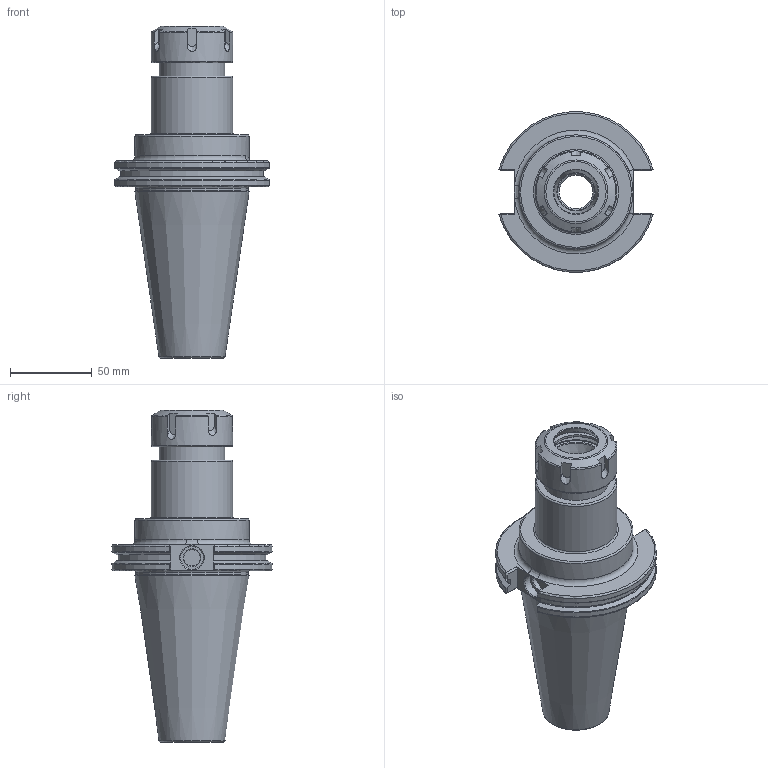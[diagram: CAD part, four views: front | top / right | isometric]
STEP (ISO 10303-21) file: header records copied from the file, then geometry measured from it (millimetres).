
FILE_DESCRIPTION(/* description */ (''),/* implementation_level */ '2;1');
FILE_NAME(/* name */ 'CAT50-ER32-4''''_asm1.prt.stp',/* time_stamp */ '2020-04-11T17:41:12+08:00',/* author */ (''),/* organization */ (''),/* preprocessor_version */ 'ST-DEVELOPER v16',/* originating_system */ 'SIEMENS PLM Software NX 10.0',/* authorisation */ '');
FILE_SCHEMA (('CONFIG_CONTROL_DESIGN'));
Length unit declared in the file: millimetre
Products named in the file (3): CAT50-ER32-4''; ER32UM压帽; CAT50-ER32-4''_asm1
Assembly tree (2 placements, depth 2):
  CAT50-ER32-4''_asm1
    ER32UM压帽
    CAT50-ER32-4''
Bounding box: 94.4 x 98.07 x 203.2 mm (x, y, z)
Volume: 458998.4 mm3; surface area: 68532 mm2
Topology: 2 solids, 2 shells, 151 faces, 402 edges, 266 vertices
Faces by surface type: plane 72, torus 27, cylinder 24, cone 20, bspline 8
Full cylindrical faces by diameter (mm): 10 x1, 14 x1, 20.5 x1, 22.225 x1, 23.5 x1, 26.19 x1, 27.17 x1, 32.7 x1, 36 x1, 38 x1, 38.376 x1, 40 x1, 40.5 x1, 50 x2, 69 x1, 69.85 x1
Entity records: 5378 total; most frequent: CARTESIAN_POINT 1567, ORIENTED_EDGE 734, DIRECTION 694, EDGE_CURVE 367, AXIS2_PLACEMENT_3D 276, VERTEX_POINT 260, EDGE_LOOP 195, ADVANCED_FACE 151
